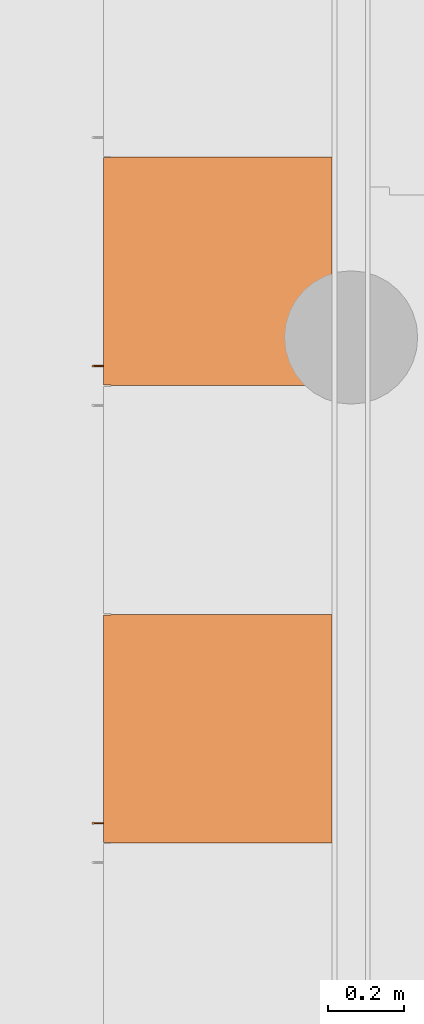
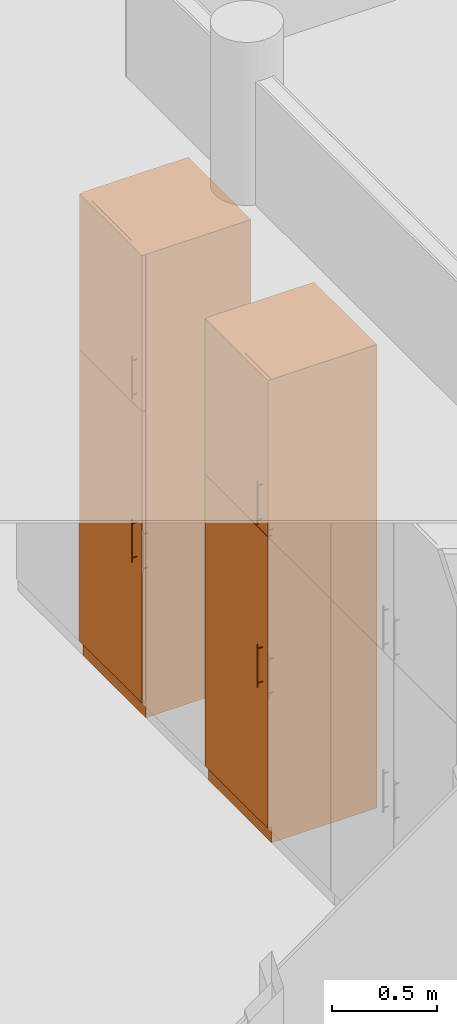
# One storey, part 85 of 167: 2 proxies.
"""IFC2X3 building model written with IfcOpenShell, lengths in millimetres."""

from ifc_helpers import new_model, entity, si_unit, converted_unit, derived_unit, money_unit, direction, frame, origin_with_axes, place, context, subcontext, project, spatial, open_shell, faceted_brep, surface_model, source, transform, mapped, type_object, type_shapes, element, save


model = new_model("IFC2X3")

# Units and contexts
model_context = context("Model", 3, precision=0.01, world=origin_with_axes(), true_north=direction((0.0, 1.0)))
plan_context = context("Plan", 3, precision=0.01, world=origin_with_axes(), true_north=direction((0.0, 1.0)))
body_context = subcontext(model_context, "Body", "Model", "MODEL_VIEW")
ifc_project = project(units=[si_unit("LENGTHUNIT", "METRE", prefix="MILLI"), si_unit("AREAUNIT", "SQUARE_METRE"), si_unit("VOLUMEUNIT", "CUBIC_METRE"), converted_unit("PLANEANGLEUNIT", "DEGREE", entity("IfcPlaneAngleMeasure", 0.0174532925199), si_unit("PLANEANGLEUNIT", "RADIAN"), dimensions=[0, 0, 0, 0, 0, 0, 0]), si_unit("SOLIDANGLEUNIT", "STERADIAN"), money_unit("EUR"), converted_unit("TIMEUNIT", "Year", entity("IfcTimeMeasure", 31556926.0), si_unit("TIMEUNIT", "SECOND"), dimensions=[0, 0, 1, 0, 0, 0, 0]), si_unit("MASSUNIT", "GRAM", prefix="KILO"), si_unit("THERMODYNAMICTEMPERATUREUNIT", "DEGREE_CELSIUS"), si_unit("LUMINOUSINTENSITYUNIT", "LUMEN"), si_unit("ENERGYUNIT", "JOULE", prefix="MEGA"), derived_unit("THERMALCONDUCTANCEUNIT", [(si_unit("POWERUNIT", "WATT"), 1), (si_unit("LENGTHUNIT", "METRE"), -1), (si_unit("THERMODYNAMICTEMPERATUREUNIT", "KELVIN"), -1)]), derived_unit("SPECIFICHEATCAPACITYUNIT", [(si_unit("ENERGYUNIT", "JOULE"), 1), (si_unit("MASSUNIT", "GRAM", prefix="KILO"), -1), (si_unit("THERMODYNAMICTEMPERATUREUNIT", "KELVIN"), -1)]), derived_unit("MASSDENSITYUNIT", [(si_unit("MASSUNIT", "GRAM", prefix="KILO"), 1), (si_unit("VOLUMEUNIT", "CUBIC_METRE"), -1)])], contexts=[model_context, plan_context])

# Site, building, storey
site_placement = place(None, origin_with_axes())
site = spatial("IfcSite", under=ifc_project, at=site_placement, Name="Site", CompositionType="ELEMENT")
building_placement = place(site_placement, origin_with_axes())
building = spatial("IfcBuilding", under=site, at=building_placement, Name="Naam gebouw", CompositionType="ELEMENT")
storey_placement = place(building_placement, origin_with_axes())
storey = spatial("IfcBuildingStorey", under=building, at=storey_placement, Name="Begane grond", CompositionType="ELEMENT", Elevation=0.0)

# Proxies
building_element_proxy_type = type_object("IfcBuildingElementProxyType", Name="Kast hoog 1D 24", PredefinedType="NOTDEFINED")
shared_shape = source(origin_with_axes(), body_context, "Body", "SurfaceModel", [
    faceted_brep([(20.0, 20.0, 1780.0), (580.0, 20.0, 1780.0), (580.0, 20.0, 1800.0), (20.0, 20.0, 1800.0), (20.0, 580.0, 1780.0), (580.0, 580.0, 1780.0), (580.0, 580.0, 1800.0), (20.0, 580.0, 1800.0)], [[[0, 1, 2, 3]], [[0, 4, 5, 1]], [[1, 5, 6, 2]], [[3, 2, 6, 7]], [[4, 0, 3, 7]], [[5, 4, 7, 6]]]),
    faceted_brep([(0.0, 20.0, 0.0), (600.0, 20.0, 0.0), (600.0, 20.0, 90.0), (0.0, 20.0, 90.0), (0.0, 600.0, 0.0), (600.0, 600.0, 0.0), (600.0, 600.0, 90.0), (0.0, 600.0, 90.0)], [[[0, 1, 2, 3]], [[0, 4, 5, 1]], [[1, 5, 6, 2]], [[3, 2, 6, 7]], [[4, 0, 3, 7]], [[5, 4, 7, 6]]]),
    faceted_brep([(0.0, 20.0, 2680.0), (20.0, 20.0, 2680.0), (20.0, 20.0, 2700.0), (0.0, 20.0, 2700.0), (0.0, 600.0, 2680.0), (20.0, 600.0, 2680.0), (580.0, 600.0, 2680.0), (600.0, 600.0, 2680.0), (600.0, 20.0, 2680.0), (580.0, 20.0, 2680.0), (580.0, 20.0, 2700.0), (600.0, 20.0, 2700.0), (600.0, 600.0, 2700.0), (580.0, 600.0, 2700.0), (20.0, 600.0, 2700.0), (0.0, 600.0, 2700.0)], [[[0, 1, 2, 3]], [[0, 4, 5, 6, 7, 8, 9, 1]], [[1, 9, 10, 2]], [[3, 2, 10, 11, 12, 13, 14, 15]], [[4, 0, 3, 15]], [[5, 4, 15, 14]], [[6, 5, 14, 13]], [[7, 6, 13, 12]], [[8, 7, 12, 11]], [[9, 8, 11, 10]]]),
    faceted_brep([(0.0, 20.0, 90.0), (20.0, 20.0, 90.0), (20.0, 20.0, 110.0), (0.0, 20.0, 110.0), (0.0, 600.0, 90.0), (20.0, 600.0, 90.0), (580.0, 600.0, 90.0), (600.0, 600.0, 90.0), (600.0, 20.0, 90.0), (580.0, 20.0, 90.0), (580.0, 20.0, 110.0), (600.0, 20.0, 110.0), (600.0, 600.0, 110.0), (580.0, 600.0, 110.0), (20.0, 600.0, 110.0), (0.0, 600.0, 110.0)], [[[0, 1, 2, 3]], [[0, 4, 5, 6, 7, 8, 9, 1]], [[1, 9, 10, 2]], [[3, 2, 10, 11, 12, 13, 14, 15]], [[4, 0, 3, 15]], [[5, 4, 15, 14]], [[6, 5, 14, 13]], [[7, 6, 13, 12]], [[8, 7, 12, 11]], [[9, 8, 11, 10]]]),
    faceted_brep([(0.0, 20.0, 110.0), (20.0, 20.0, 110.0), (20.0, 20.0, 2680.0), (0.0, 20.0, 2680.0), (0.0, 600.0, 110.0), (600.0, 600.0, 110.0), (600.0, 20.0, 110.0), (580.0, 20.0, 110.0), (580.0, 580.0, 110.0), (20.0, 580.0, 110.0), (20.0, 580.0, 2680.0), (580.0, 580.0, 2680.0), (580.0, 20.0, 2680.0), (600.0, 20.0, 2680.0), (600.0, 600.0, 2680.0), (0.0, 600.0, 2680.0)], [[[0, 1, 2, 3]], [[0, 4, 5, 6, 7, 8, 9, 1]], [[1, 9, 10, 2]], [[3, 2, 10, 11, 12, 13, 14, 15]], [[4, 0, 3, 15]], [[5, 4, 15, 14]], [[6, 5, 14, 13]], [[7, 6, 13, 12]], [[8, 7, 12, 11]], [[9, 8, 11, 10]]]),
    faceted_brep([(580.0, 20.0, 414.0), (580.0, 580.0, 414.0), (580.0, 580.0, 434.0), (580.0, 20.0, 434.0), (20.0, 20.0, 414.0), (20.0, 580.0, 414.0), (20.0, 580.0, 434.0), (20.0, 20.0, 434.0)], [[[0, 1, 2, 3]], [[0, 4, 5, 1]], [[1, 5, 6, 2]], [[3, 2, 6, 7]], [[4, 0, 3, 7]], [[5, 4, 7, 6]]]),
    faceted_brep([(580.0, 20.0, 758.0), (580.0, 580.0, 758.0), (580.0, 580.0, 778.0), (580.0, 20.0, 778.0), (20.0, 20.0, 758.0), (20.0, 580.0, 758.0), (20.0, 580.0, 778.0), (20.0, 20.0, 778.0)], [[[0, 1, 2, 3]], [[0, 4, 5, 1]], [[1, 5, 6, 2]], [[3, 2, 6, 7]], [[4, 0, 3, 7]], [[5, 4, 7, 6]]]),
    faceted_brep([(580.0, 20.0, 1102.0), (580.0, 580.0, 1102.0), (580.0, 580.0, 1122.0), (580.0, 20.0, 1122.0), (20.0, 20.0, 1102.0), (20.0, 580.0, 1102.0), (20.0, 580.0, 1122.0), (20.0, 20.0, 1122.0)], [[[0, 1, 2, 3]], [[0, 4, 5, 1]], [[1, 5, 6, 2]], [[3, 2, 6, 7]], [[4, 0, 3, 7]], [[5, 4, 7, 6]]]),
    faceted_brep([(580.0, 20.0, 1446.0), (580.0, 580.0, 1446.0), (580.0, 580.0, 1466.0), (580.0, 20.0, 1466.0), (20.0, 20.0, 1446.0), (20.0, 580.0, 1446.0), (20.0, 580.0, 1466.0), (20.0, 20.0, 1466.0)], [[[0, 1, 2, 3]], [[0, 4, 5, 1]], [[1, 5, 6, 2]], [[3, 2, 6, 7]], [[4, 0, 3, 7]], [[5, 4, 7, 6]]]),
    faceted_brep([(1.5, 20.0, 91.5), (598.5, 20.0, 91.5), (598.5, 0.0, 91.5), (1.5, 0.0, 91.5), (1.5, 20.0, 1788.5), (598.5, 20.0, 1788.5), (598.5, 0.0, 1788.5), (1.5, 0.0, 1788.5)], [[[0, 1, 2, 3]], [[0, 4, 5, 1]], [[1, 5, 6, 2]], [[3, 2, 6, 7]], [[4, 0, 3, 7]], [[5, 4, 7, 6]]]),
    faceted_brep([(551.397777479, -27.7764571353, 891.5), (551.098076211, -28.5, 891.5), (550.621320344, -29.1213203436, 891.5), (550.0, -29.5980762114, 891.5), (549.276457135, -29.8977774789, 891.5), (548.5, -30.0, 891.5), (547.723542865, -29.8977774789, 891.5), (547.0, -29.5980762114, 891.5), (546.378679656, -29.1213203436, 891.5), (545.901923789, -28.5, 891.5), (545.602222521, -27.7764571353, 891.5), (545.5, -27.0, 891.5), (545.602222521, -26.2235428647, 891.5), (545.901923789, -25.5, 891.5), (546.378679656, -24.8786796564, 891.5), (547.0, -24.4019237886, 891.5), (547.723542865, -24.1022225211, 891.5), (548.5, -24.0, 891.5), (549.276457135, -24.1022225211, 891.5), (550.0, -24.4019237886, 891.5), (550.621320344, -24.8786796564, 891.5), (551.098076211, -25.5, 891.5), (551.397777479, -26.2235428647, 891.5), (551.5, -27.0, 891.5), (551.397777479, -27.7764571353, 1141.5), (551.098076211, -28.5, 1141.5), (550.621320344, -29.1213203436, 1141.5), (550.0, -29.5980762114, 1141.5), (549.276457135, -29.8977774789, 1141.5), (548.5, -30.0, 1141.5), (547.723542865, -29.8977774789, 1141.5), (547.0, -29.5980762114, 1141.5), (546.378679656, -29.1213203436, 1141.5), (545.901923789, -28.5, 1141.5), (545.602222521, -27.7764571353, 1141.5), (545.5, -27.0, 1141.5), (545.602222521, -26.2235428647, 1141.5), (545.901923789, -25.5, 1141.5), (546.378679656, -24.8786796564, 1141.5), (547.0, -24.4019237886, 1141.5), (547.723542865, -24.1022225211, 1141.5), (548.5, -24.0, 1141.5), (549.276457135, -24.1022225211, 1141.5), (550.0, -24.4019237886, 1141.5), (550.621320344, -24.8786796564, 1141.5), (551.098076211, -25.5, 1141.5), (551.397777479, -26.2235428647, 1141.5), (551.5, -27.0, 1141.5)], [[[0, 1, 2, 3, 4, 5, 6, 7, 8, 9, 10, 11, 12, 13, 14, 15, 16, 17, 18, 19, 20, 21, 22, 23]], [[1, 0, 24, 25]], [[2, 1, 25, 26]], [[3, 2, 26, 27]], [[4, 3, 27, 28]], [[5, 4, 28, 29]], [[6, 5, 29, 30]], [[7, 6, 30, 31]], [[8, 7, 31, 32]], [[9, 8, 32, 33]], [[10, 9, 33, 34]], [[11, 10, 34, 35]], [[12, 11, 35, 36]], [[13, 12, 36, 37]], [[14, 13, 37, 38]], [[15, 14, 38, 39]], [[16, 15, 39, 40]], [[17, 16, 40, 41]], [[18, 17, 41, 42]], [[19, 18, 42, 43]], [[20, 19, 43, 44]], [[21, 20, 44, 45]], [[22, 21, 45, 46]], [[23, 22, 46, 47]], [[0, 23, 47, 24]], [[24, 47, 46, 45, 44, 43, 42, 41, 40, 39, 38, 37, 36, 35, 34, 33, 32, 31, 30, 29, 28, 27, 26, 25]]]),
    surface_model("IfcShellBasedSurfaceModel", [(549.147047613, -24.070609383, 914.085185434), (548.5, -24.0, 914.0), (548.5, 0.0, 914.0), (549.147047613, 0.0, 914.085185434), (547.852952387, -24.070609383, 914.085185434), (547.852952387, 0.0, 914.085185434), (547.25, 0.0, 914.334936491), (546.732233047, 0.0, 914.732233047), (546.334936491, 0.0, 915.25), (546.085185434, 0.0, 915.852952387), (546.0, 0.0, 916.5), (546.085185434, 0.0, 917.147047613), (546.334936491, 0.0, 917.75), (546.732233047, 0.0, 918.267766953), (547.25, 0.0, 918.665063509), (547.852952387, 0.0, 918.914814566), (548.5, 0.0, 919.0), (549.147047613, 0.0, 918.914814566), (549.75, 0.0, 918.665063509), (550.267766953, 0.0, 918.267766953), (550.665063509, 0.0, 917.75), (550.914814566, 0.0, 917.147047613), (551.0, 0.0, 916.5), (550.914814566, 0.0, 915.852952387), (550.665063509, 0.0, 915.25), (550.267766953, 0.0, 914.732233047), (549.75, 0.0, 914.334936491), (549.75, -24.2728219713, 914.334936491), (547.25, -24.2728219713, 914.334936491), (546.732233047, -24.5761600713, 914.732233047), (546.334936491, -24.9233440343, 915.25), (546.085185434, -25.2199239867, 915.852952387), (546.0, -25.3416876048, 916.5), (546.085185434, -25.2199239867, 917.147047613), (546.334936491, -24.9233440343, 917.75), (546.732233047, -24.5761600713, 918.267766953), (547.25, -24.2728219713, 918.665063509), (547.852952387, -24.070609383, 918.914814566), (548.5, -24.0, 919.0), (549.147047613, -24.070609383, 918.914814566), (549.75, -24.2728219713, 918.665063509), (550.267766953, -24.5761600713, 918.267766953), (550.665063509, -24.9233440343, 917.75), (550.914814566, -25.2199239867, 917.147047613), (551.0, -25.3416876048, 916.5), (550.914814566, -25.2199239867, 915.852952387), (550.665063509, -24.9233440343, 915.25), (550.267766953, -24.5761600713, 914.732233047)], [open_shell([[[0, 1, 2, 3]], [[1, 4, 5, 2]], [[3, 2, 5, 6, 7, 8, 9, 10, 11, 12, 13, 14, 15, 16, 17, 18, 19, 20, 21, 22, 23, 24, 25, 26]], [[27, 0, 3, 26]], [[4, 28, 6, 5]], [[28, 29, 7, 6]], [[29, 30, 8, 7]], [[30, 31, 9, 8]], [[31, 32, 10, 9]], [[32, 33, 11, 10]], [[33, 34, 12, 11]], [[34, 35, 13, 12]], [[35, 36, 14, 13]], [[36, 37, 15, 14]], [[37, 38, 16, 15]], [[38, 39, 17, 16]], [[39, 40, 18, 17]], [[40, 41, 19, 18]], [[41, 42, 20, 19]], [[42, 43, 21, 20]], [[43, 44, 22, 21]], [[44, 45, 23, 22]], [[45, 46, 24, 23]], [[46, 47, 25, 24]], [[47, 27, 26, 25]]])]),
    surface_model("IfcShellBasedSurfaceModel", [(549.147047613, -24.070609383, 1114.08518543), (548.5, -24.0, 1114.0), (548.5, 0.0, 1114.0), (549.147047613, 0.0, 1114.08518543), (547.852952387, -24.070609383, 1114.08518543), (547.852952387, 0.0, 1114.08518543), (547.25, 0.0, 1114.33493649), (546.732233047, 0.0, 1114.73223305), (546.334936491, 0.0, 1115.25), (546.085185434, 0.0, 1115.85295239), (546.0, 0.0, 1116.5), (546.085185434, 0.0, 1117.14704761), (546.334936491, 0.0, 1117.75), (546.732233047, 0.0, 1118.26776695), (547.25, 0.0, 1118.66506351), (547.852952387, 0.0, 1118.91481457), (548.5, 0.0, 1119.0), (549.147047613, 0.0, 1118.91481457), (549.75, 0.0, 1118.66506351), (550.267766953, 0.0, 1118.26776695), (550.665063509, 0.0, 1117.75), (550.914814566, 0.0, 1117.14704761), (551.0, 0.0, 1116.5), (550.914814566, 0.0, 1115.85295239), (550.665063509, 0.0, 1115.25), (550.267766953, 0.0, 1114.73223305), (549.75, 0.0, 1114.33493649), (549.75, -24.2728219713, 1114.33493649), (547.25, -24.2728219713, 1114.33493649), (546.732233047, -24.5761600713, 1114.73223305), (546.334936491, -24.9233440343, 1115.25), (546.085185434, -25.2199239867, 1115.85295239), (546.0, -25.3416876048, 1116.5), (546.085185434, -25.2199239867, 1117.14704761), (546.334936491, -24.9233440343, 1117.75), (546.732233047, -24.5761600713, 1118.26776695), (547.25, -24.2728219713, 1118.66506351), (547.852952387, -24.070609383, 1118.91481457), (548.5, -24.0, 1119.0), (549.147047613, -24.070609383, 1118.91481457), (549.75, -24.2728219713, 1118.66506351), (550.267766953, -24.5761600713, 1118.26776695), (550.665063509, -24.9233440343, 1117.75), (550.914814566, -25.2199239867, 1117.14704761), (551.0, -25.3416876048, 1116.5), (550.914814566, -25.2199239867, 1115.85295239), (550.665063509, -24.9233440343, 1115.25), (550.267766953, -24.5761600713, 1114.73223305)], [open_shell([[[0, 1, 2, 3]], [[1, 4, 5, 2]], [[3, 2, 5, 6, 7, 8, 9, 10, 11, 12, 13, 14, 15, 16, 17, 18, 19, 20, 21, 22, 23, 24, 25, 26]], [[27, 0, 3, 26]], [[4, 28, 6, 5]], [[28, 29, 7, 6]], [[29, 30, 8, 7]], [[30, 31, 9, 8]], [[31, 32, 10, 9]], [[32, 33, 11, 10]], [[33, 34, 12, 11]], [[34, 35, 13, 12]], [[35, 36, 14, 13]], [[36, 37, 15, 14]], [[37, 38, 16, 15]], [[38, 39, 17, 16]], [[39, 40, 18, 17]], [[40, 41, 19, 18]], [[41, 42, 20, 19]], [[42, 43, 21, 20]], [[43, 44, 22, 21]], [[44, 45, 23, 22]], [[45, 46, 24, 23]], [[46, 47, 25, 24]], [[47, 27, 26, 25]]])]),
    faceted_brep([(1.5, 20.0, 1791.5), (598.5, 20.0, 1791.5), (598.5, 0.0, 1791.5), (1.5, 0.0, 1791.5), (1.5, 20.0, 2698.5), (598.5, 20.0, 2698.5), (598.5, 0.0, 2698.5), (1.5, 0.0, 2698.5)], [[[0, 1, 2, 3]], [[0, 4, 5, 1]], [[1, 5, 6, 2]], [[3, 2, 6, 7]], [[4, 0, 3, 7]], [[5, 4, 7, 6]]]),
    faceted_brep([(551.397777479, -27.7764571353, 1841.5), (551.098076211, -28.5, 1841.5), (550.621320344, -29.1213203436, 1841.5), (550.0, -29.5980762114, 1841.5), (549.276457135, -29.8977774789, 1841.5), (548.5, -30.0, 1841.5), (547.723542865, -29.8977774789, 1841.5), (547.0, -29.5980762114, 1841.5), (546.378679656, -29.1213203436, 1841.5), (545.901923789, -28.5, 1841.5), (545.602222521, -27.7764571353, 1841.5), (545.5, -27.0, 1841.5), (545.602222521, -26.2235428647, 1841.5), (545.901923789, -25.5, 1841.5), (546.378679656, -24.8786796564, 1841.5), (547.0, -24.4019237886, 1841.5), (547.723542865, -24.1022225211, 1841.5), (548.5, -24.0, 1841.5), (549.276457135, -24.1022225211, 1841.5), (550.0, -24.4019237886, 1841.5), (550.621320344, -24.8786796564, 1841.5), (551.098076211, -25.5, 1841.5), (551.397777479, -26.2235428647, 1841.5), (551.5, -27.0, 1841.5), (551.397777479, -27.7764571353, 2091.5), (551.098076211, -28.5, 2091.5), (550.621320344, -29.1213203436, 2091.5), (550.0, -29.5980762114, 2091.5), (549.276457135, -29.8977774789, 2091.5), (548.5, -30.0, 2091.5), (547.723542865, -29.8977774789, 2091.5), (547.0, -29.5980762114, 2091.5), (546.378679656, -29.1213203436, 2091.5), (545.901923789, -28.5, 2091.5), (545.602222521, -27.7764571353, 2091.5), (545.5, -27.0, 2091.5), (545.602222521, -26.2235428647, 2091.5), (545.901923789, -25.5, 2091.5), (546.378679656, -24.8786796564, 2091.5), (547.0, -24.4019237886, 2091.5), (547.723542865, -24.1022225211, 2091.5), (548.5, -24.0, 2091.5), (549.276457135, -24.1022225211, 2091.5), (550.0, -24.4019237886, 2091.5), (550.621320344, -24.8786796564, 2091.5), (551.098076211, -25.5, 2091.5), (551.397777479, -26.2235428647, 2091.5), (551.5, -27.0, 2091.5)], [[[0, 1, 2, 3, 4, 5, 6, 7, 8, 9, 10, 11, 12, 13, 14, 15, 16, 17, 18, 19, 20, 21, 22, 23]], [[1, 0, 24, 25]], [[2, 1, 25, 26]], [[3, 2, 26, 27]], [[4, 3, 27, 28]], [[5, 4, 28, 29]], [[6, 5, 29, 30]], [[7, 6, 30, 31]], [[8, 7, 31, 32]], [[9, 8, 32, 33]], [[10, 9, 33, 34]], [[11, 10, 34, 35]], [[12, 11, 35, 36]], [[13, 12, 36, 37]], [[14, 13, 37, 38]], [[15, 14, 38, 39]], [[16, 15, 39, 40]], [[17, 16, 40, 41]], [[18, 17, 41, 42]], [[19, 18, 42, 43]], [[20, 19, 43, 44]], [[21, 20, 44, 45]], [[22, 21, 45, 46]], [[23, 22, 46, 47]], [[0, 23, 47, 24]], [[24, 47, 46, 45, 44, 43, 42, 41, 40, 39, 38, 37, 36, 35, 34, 33, 32, 31, 30, 29, 28, 27, 26, 25]]]),
    surface_model("IfcShellBasedSurfaceModel", [(549.147047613, -24.070609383, 1864.08518543), (548.5, -24.0, 1864.0), (548.5, 0.0, 1864.0), (549.147047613, 0.0, 1864.08518543), (547.852952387, -24.070609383, 1864.08518543), (547.852952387, 0.0, 1864.08518543), (547.25, 0.0, 1864.33493649), (546.732233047, 0.0, 1864.73223305), (546.334936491, 0.0, 1865.25), (546.085185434, 0.0, 1865.85295239), (546.0, 0.0, 1866.5), (546.085185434, 0.0, 1867.14704761), (546.334936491, 0.0, 1867.75), (546.732233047, 0.0, 1868.26776695), (547.25, 0.0, 1868.66506351), (547.852952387, 0.0, 1868.91481457), (548.5, 0.0, 1869.0), (549.147047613, 0.0, 1868.91481457), (549.75, 0.0, 1868.66506351), (550.267766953, 0.0, 1868.26776695), (550.665063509, 0.0, 1867.75), (550.914814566, 0.0, 1867.14704761), (551.0, 0.0, 1866.5), (550.914814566, 0.0, 1865.85295239), (550.665063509, 0.0, 1865.25), (550.267766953, 0.0, 1864.73223305), (549.75, 0.0, 1864.33493649), (549.75, -24.2728219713, 1864.33493649), (547.25, -24.2728219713, 1864.33493649), (546.732233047, -24.5761600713, 1864.73223305), (546.334936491, -24.9233440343, 1865.25), (546.085185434, -25.2199239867, 1865.85295239), (546.0, -25.3416876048, 1866.5), (546.085185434, -25.2199239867, 1867.14704761), (546.334936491, -24.9233440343, 1867.75), (546.732233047, -24.5761600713, 1868.26776695), (547.25, -24.2728219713, 1868.66506351), (547.852952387, -24.070609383, 1868.91481457), (548.5, -24.0, 1869.0), (549.147047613, -24.070609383, 1868.91481457), (549.75, -24.2728219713, 1868.66506351), (550.267766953, -24.5761600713, 1868.26776695), (550.665063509, -24.9233440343, 1867.75), (550.914814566, -25.2199239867, 1867.14704761), (551.0, -25.3416876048, 1866.5), (550.914814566, -25.2199239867, 1865.85295239), (550.665063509, -24.9233440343, 1865.25), (550.267766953, -24.5761600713, 1864.73223305)], [open_shell([[[0, 1, 2, 3]], [[1, 4, 5, 2]], [[3, 2, 5, 6, 7, 8, 9, 10, 11, 12, 13, 14, 15, 16, 17, 18, 19, 20, 21, 22, 23, 24, 25, 26]], [[27, 0, 3, 26]], [[4, 28, 6, 5]], [[28, 29, 7, 6]], [[29, 30, 8, 7]], [[30, 31, 9, 8]], [[31, 32, 10, 9]], [[32, 33, 11, 10]], [[33, 34, 12, 11]], [[34, 35, 13, 12]], [[35, 36, 14, 13]], [[36, 37, 15, 14]], [[37, 38, 16, 15]], [[38, 39, 17, 16]], [[39, 40, 18, 17]], [[40, 41, 19, 18]], [[41, 42, 20, 19]], [[42, 43, 21, 20]], [[43, 44, 22, 21]], [[44, 45, 23, 22]], [[45, 46, 24, 23]], [[46, 47, 25, 24]], [[47, 27, 26, 25]]])]),
    surface_model("IfcShellBasedSurfaceModel", [(549.147047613, -24.070609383, 2064.08518543), (548.5, -24.0, 2064.0), (548.5, 0.0, 2064.0), (549.147047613, 0.0, 2064.08518543), (547.852952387, -24.070609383, 2064.08518543), (547.852952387, 0.0, 2064.08518543), (547.25, 0.0, 2064.33493649), (546.732233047, 0.0, 2064.73223305), (546.334936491, 0.0, 2065.25), (546.085185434, 0.0, 2065.85295239), (546.0, 0.0, 2066.5), (546.085185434, 0.0, 2067.14704761), (546.334936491, 0.0, 2067.75), (546.732233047, 0.0, 2068.26776695), (547.25, 0.0, 2068.66506351), (547.852952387, 0.0, 2068.91481457), (548.5, 0.0, 2069.0), (549.147047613, 0.0, 2068.91481457), (549.75, 0.0, 2068.66506351), (550.267766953, 0.0, 2068.26776695), (550.665063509, 0.0, 2067.75), (550.914814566, 0.0, 2067.14704761), (551.0, 0.0, 2066.5), (550.914814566, 0.0, 2065.85295239), (550.665063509, 0.0, 2065.25), (550.267766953, 0.0, 2064.73223305), (549.75, 0.0, 2064.33493649), (549.75, -24.2728219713, 2064.33493649), (547.25, -24.2728219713, 2064.33493649), (546.732233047, -24.5761600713, 2064.73223305), (546.334936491, -24.9233440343, 2065.25), (546.085185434, -25.2199239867, 2065.85295239), (546.0, -25.3416876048, 2066.5), (546.085185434, -25.2199239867, 2067.14704761), (546.334936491, -24.9233440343, 2067.75), (546.732233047, -24.5761600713, 2068.26776695), (547.25, -24.2728219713, 2068.66506351), (547.852952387, -24.070609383, 2068.91481457), (548.5, -24.0, 2069.0), (549.147047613, -24.070609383, 2068.91481457), (549.75, -24.2728219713, 2068.66506351), (550.267766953, -24.5761600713, 2068.26776695), (550.665063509, -24.9233440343, 2067.75), (550.914814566, -25.2199239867, 2067.14704761), (551.0, -25.3416876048, 2066.5), (550.914814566, -25.2199239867, 2065.85295239), (550.665063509, -24.9233440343, 2065.25), (550.267766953, -24.5761600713, 2064.73223305)], [open_shell([[[0, 1, 2, 3]], [[1, 4, 5, 2]], [[3, 2, 5, 6, 7, 8, 9, 10, 11, 12, 13, 14, 15, 16, 17, 18, 19, 20, 21, 22, 23, 24, 25, 26]], [[27, 0, 3, 26]], [[4, 28, 6, 5]], [[28, 29, 7, 6]], [[29, 30, 8, 7]], [[30, 31, 9, 8]], [[31, 32, 10, 9]], [[32, 33, 11, 10]], [[33, 34, 12, 11]], [[34, 35, 13, 12]], [[35, 36, 14, 13]], [[36, 37, 15, 14]], [[37, 38, 16, 15]], [[38, 39, 17, 16]], [[39, 40, 18, 17]], [[40, 41, 19, 18]], [[41, 42, 20, 19]], [[42, 43, 21, 20]], [[43, 44, 22, 21]], [[44, 45, 23, 22]], [[45, 46, 24, 23]], [[46, 47, 25, 24]], [[47, 27, 26, 25]]])]),
])
type_shapes(building_element_proxy_type, [shared_shape])
for number, where, z_axis, x_axis in (
    (1, (13750.0, 6473.34783859, 0.0), (0.0, 0.0, 1.0), (0.0, -1.0, 0.0)),
    (2, (13750.0, 7673.34783859, 0.0), (0.0, 0.0, 1.0), (0.0, -1.0, 0.0)),
):
    element("IfcBuildingElementProxy", number, at=place(storey_placement, frame(where, z_axis=z_axis, x_axis=x_axis)), inside=storey, type_object=building_element_proxy_type, Name="__Object-x", context=body_context, shape_type="MappedRepresentation", body=[
        mapped(shared_shape, transform((0.0, 0.0, 0.0))),
    ])

save(model, "model.ifc")
